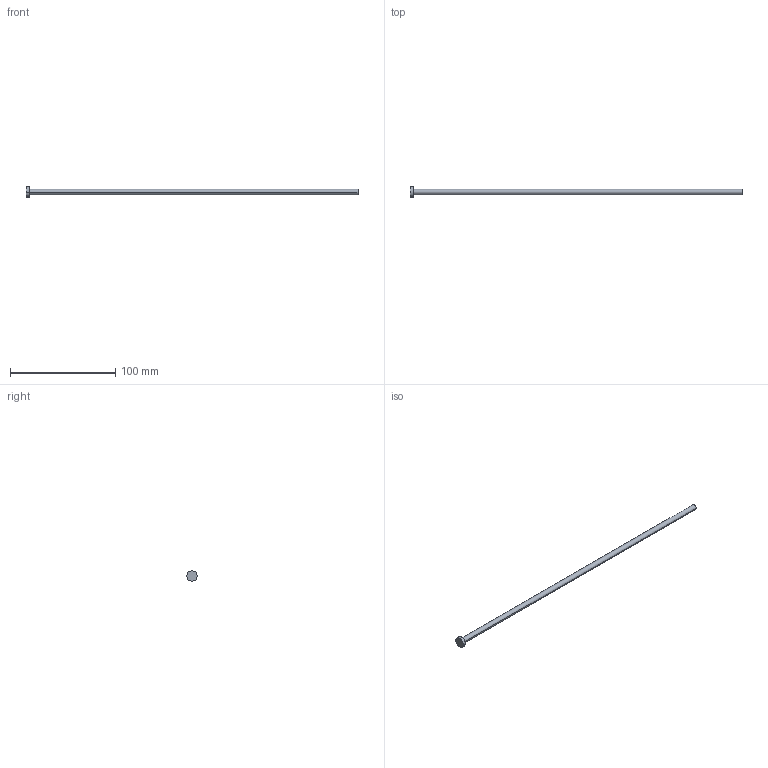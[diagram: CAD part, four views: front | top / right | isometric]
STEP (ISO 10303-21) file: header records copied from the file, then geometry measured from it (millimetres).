
FILE_DESCRIPTION (( 'STEP AP214' ), '1' );
FILE_NAME ('A-5,2x315.STEP', '2020-05-29T10:31:50', ( 'August' ), ( '' ), 'SwSTEP 2.0', 'SolidWorks 2018', '' );
FILE_SCHEMA (( 'AUTOMOTIVE_DESIGN' ));
Length unit declared in the file: millimetre
Products named in the file (1): A-5,2x315
Bounding box: 315 x 10 x 10 mm (x, y, z)
Volume: 6861.9 mm3; surface area: 5346.2 mm2
Topology: 1 solids, 1 shells, 9 faces, 16 edges, 10 vertices
Faces by surface type: cylinder 4, plane 3, torus 2
Entity records: 260 total; most frequent: DIRECTION 48, CARTESIAN_POINT 36, ORIENTED_EDGE 32, AXIS2_PLACEMENT_3D 22, EDGE_CURVE 16, CIRCLE 12, EDGE_LOOP 10, VERTEX_POINT 10
